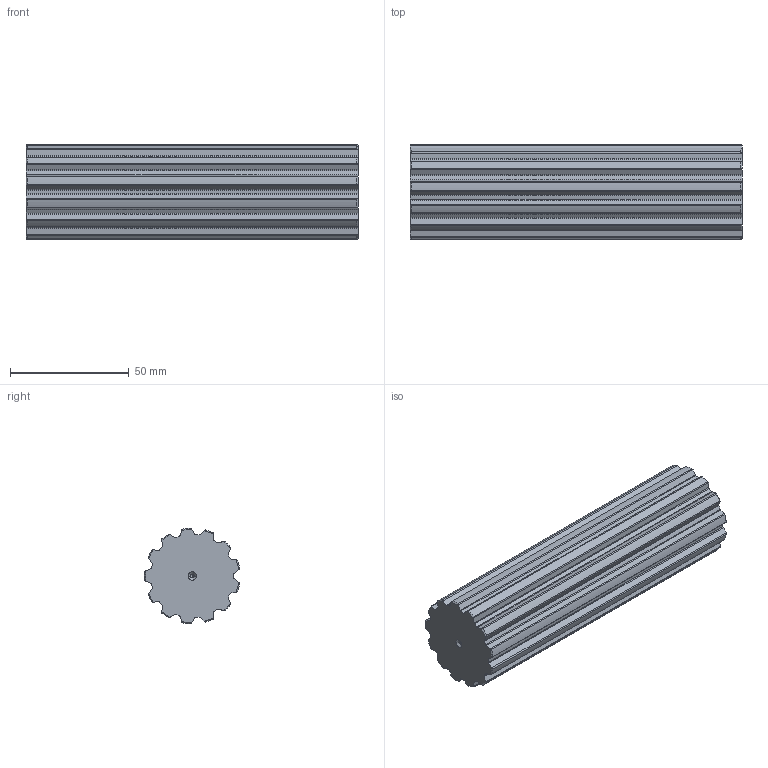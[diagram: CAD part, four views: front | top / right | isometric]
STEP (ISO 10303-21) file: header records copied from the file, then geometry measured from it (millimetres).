
FILE_DESCRIPTION(('STEP AP203'),'1');
FILE_NAME('bart_13.stp','2021-08-17T09:41:44',('TraceParts'),('TraceParts S.A.'),'Spatial InterOp 3D',' ',' ');
FILE_SCHEMA(('CONFIG_CONTROL_DESIGN'));
Length unit declared in the file: millimetre
Products named in the file (1): 1
Bounding box: 140 x 40.13 x 40.35 mm (x, y, z)
Volume: 160061.1 mm3; surface area: 23849.6 mm2
Topology: 1 solids, 1 shells, 146 faces, 424 edges, 278 vertices
Faces by surface type: cylinder 82, cone 36, plane 28
Entity records: 5074 total; most frequent: CARTESIAN_POINT 1313, ORIENTED_EDGE 840, DIRECTION 756, EDGE_CURVE 420, AXIS2_PLACEMENT_3D 293, VERTEX_POINT 278, LINE 170, VECTOR 170
